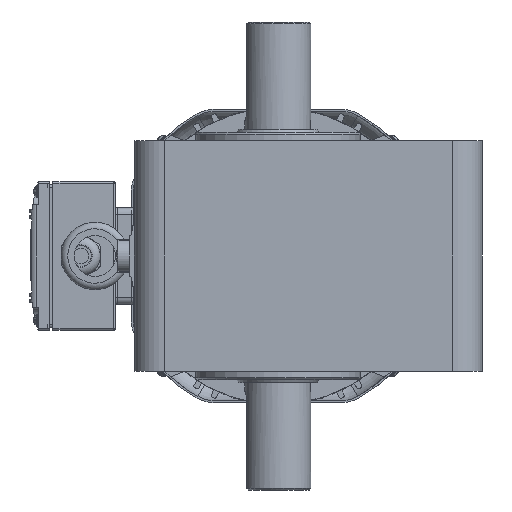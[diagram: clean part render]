
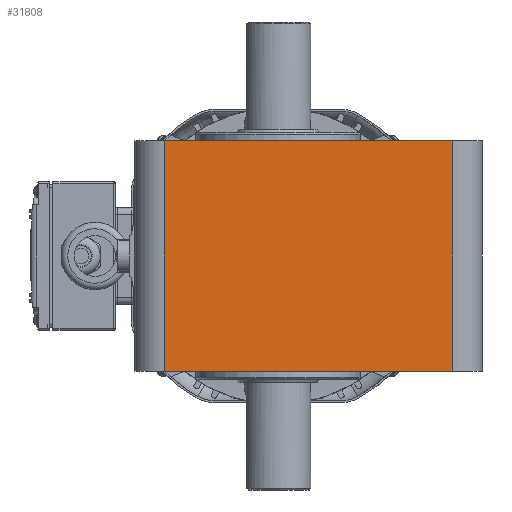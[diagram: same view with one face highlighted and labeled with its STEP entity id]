
A CAD part, left-side view. The second image highlights one B-rep face of the part: STEP entity #31808.
In plain terms, the highlighted planar face has unit normal (-1, 0, 0).
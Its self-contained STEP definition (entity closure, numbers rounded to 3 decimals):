
#2461=LINE('',#61672,#4546);
#2486=LINE('',#61782,#4571);
#2487=LINE('',#61786,#4572);
#2488=LINE('',#61787,#4573);
#4546=VECTOR('',#42008,175.);
#4571=VECTOR('',#42123,140.);
#4572=VECTOR('',#42128,140.);
#4573=VECTOR('',#42129,175.);
#7372=FACE_OUTER_BOUND('',#9279,.T.);
#9279=EDGE_LOOP('',(#25788,#25789,#25790,#25791));
#13967=VERTEX_POINT('',#61669);
#13968=VERTEX_POINT('',#61671);
#14008=VERTEX_POINT('',#61781);
#14009=VERTEX_POINT('',#61785);
#18061=EDGE_CURVE('',#13968,#13967,#2461,.T.);
#18114=EDGE_CURVE('',#13968,#14008,#2486,.T.);
#18116=EDGE_CURVE('',#14009,#13967,#2487,.T.);
#18117=EDGE_CURVE('',#14009,#14008,#2488,.T.);
#25788=ORIENTED_EDGE('',*,*,#18114,.F.);
#25789=ORIENTED_EDGE('',*,*,#18061,.T.);
#25790=ORIENTED_EDGE('',*,*,#18116,.F.);
#25791=ORIENTED_EDGE('',*,*,#18117,.T.);
#28824=PLANE('',#34843);
#31808=ADVANCED_FACE('',(#7372),#28824,.T.);
#34843=AXIS2_PLACEMENT_3D('',#61784,#42126,#42127);
#42008=DIRECTION('',(0.,1.,0.));
#42123=DIRECTION('',(0.,0.,-1.));
#42126=DIRECTION('center_axis',(-1.,0.,0.));
#42127=DIRECTION('ref_axis',(0.,0.,1.));
#42128=DIRECTION('',(0.,0.,1.));
#42129=DIRECTION('',(0.,-1.,0.));
#61669=CARTESIAN_POINT('',(-118.336,54.546,70.));
#61671=CARTESIAN_POINT('',(-118.336,-120.454,70.));
#61672=CARTESIAN_POINT('',(-118.336,-120.454,70.));
#61781=CARTESIAN_POINT('',(-118.336,-120.454,-70.));
#61782=CARTESIAN_POINT('',(-118.336,-120.454,70.));
#61784=CARTESIAN_POINT('Origin',(-118.336,-138.454,-70.));
#61785=CARTESIAN_POINT('',(-118.336,54.546,-70.));
#61786=CARTESIAN_POINT('',(-118.336,54.546,-70.));
#61787=CARTESIAN_POINT('',(-118.336,54.546,-70.));
